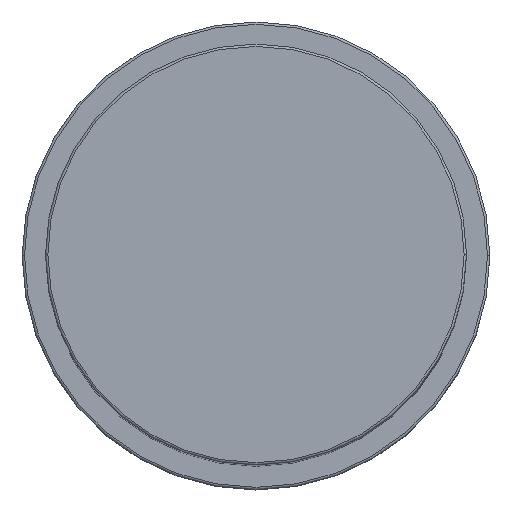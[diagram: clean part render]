
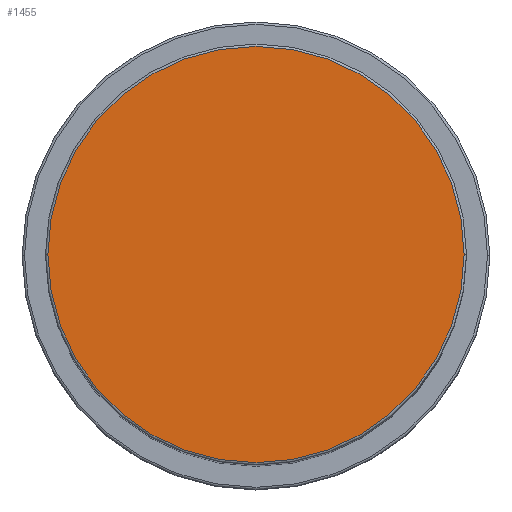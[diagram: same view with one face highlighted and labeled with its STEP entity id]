
A CAD part, top view. The second image highlights one B-rep face of the part: STEP entity #1455.
In plain terms, the highlighted planar face has unit normal (0, 0, 1).
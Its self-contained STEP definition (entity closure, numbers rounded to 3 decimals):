
#184 = CARTESIAN_POINT ( 'NONE',  ( 0., 0., 179. ) ) ;
#304 = DIRECTION ( 'NONE',  ( 1., 0., 0. ) ) ;
#412 = AXIS2_PLACEMENT_3D ( 'NONE', #1483, #1487, #715 ) ;
#545 = ORIENTED_EDGE ( 'NONE', *, *, #904, .T. ) ;
#598 = VERTEX_POINT ( 'NONE', #1278 ) ;
#703 = PLANE ( 'NONE',  #1601 ) ;
#715 = DIRECTION ( 'NONE',  ( 1., 0., 0. ) ) ;
#796 = DIRECTION ( 'NONE',  ( 1., 0., 0. ) ) ;
#827 = DIRECTION ( 'NONE',  ( 0., 0., 1. ) ) ;
#841 = EDGE_CURVE ( 'NONE', #1084, #598, #1562, .T. ) ;
#904 = EDGE_CURVE ( 'NONE', #598, #1084, #1522, .T. ) ;
#942 = AXIS2_PLACEMENT_3D ( 'NONE', #184, #1176, #796 ) ;
#1084 = VERTEX_POINT ( 'NONE', #1653 ) ;
#1176 = DIRECTION ( 'NONE',  ( 0., 0., 1. ) ) ;
#1207 = ORIENTED_EDGE ( 'NONE', *, *, #841, .T. ) ;
#1221 = EDGE_LOOP ( 'NONE', ( #545, #1207 ) ) ;
#1278 = CARTESIAN_POINT ( 'NONE',  ( 44.5, 0., 179. ) ) ;
#1399 = FACE_OUTER_BOUND ( 'NONE', #1221, .T. ) ;
#1455 = ADVANCED_FACE ( 'NONE', ( #1399 ), #703, .T. ) ;
#1483 = CARTESIAN_POINT ( 'NONE',  ( 0., 0., 179. ) ) ;
#1487 = DIRECTION ( 'NONE',  ( 0., 0., 1. ) ) ;
#1522 = CIRCLE ( 'NONE', #412, 44.5 ) ;
#1562 = CIRCLE ( 'NONE', #942, 44.5 ) ;
#1601 = AXIS2_PLACEMENT_3D ( 'NONE', #1611, #827, #304 ) ;
#1611 = CARTESIAN_POINT ( 'NONE',  ( 0., 0., 179. ) ) ;
#1653 = CARTESIAN_POINT ( 'NONE',  ( -44.5, 0., 179. ) ) ;
